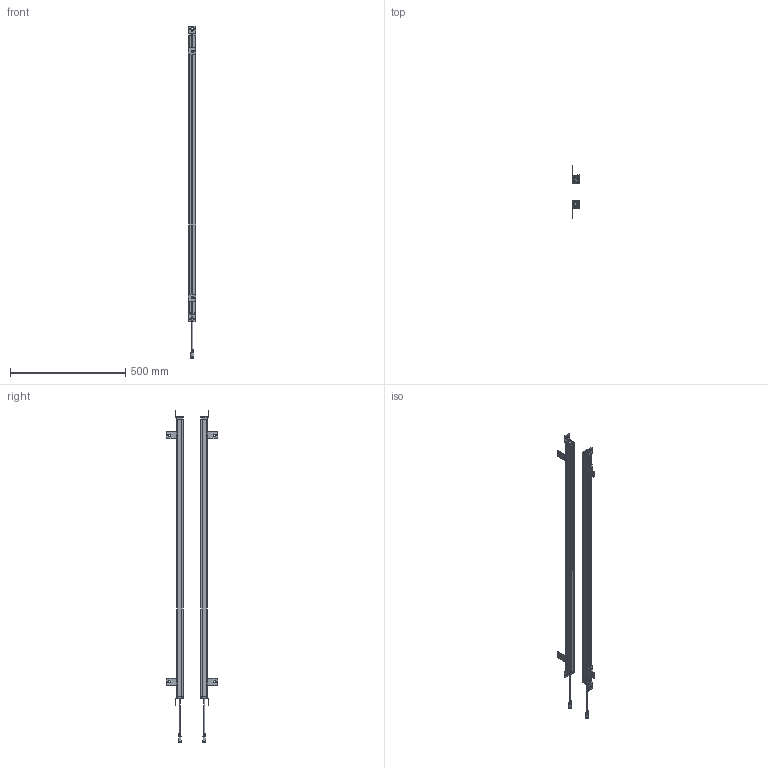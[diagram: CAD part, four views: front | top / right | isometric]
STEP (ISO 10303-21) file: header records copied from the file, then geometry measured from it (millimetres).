
FILE_DESCRIPTION(/* description */ (''),/* implementation_level */ '2;1');
FILE_NAME(/* name */ '6020（29x30）.stp',/* time_stamp */ '2023-04-28T14:10:50+08:00',/* author */ (''),/* organization */ (''),/* preprocessor_version */ 'ST-DEVELOPER v16.7',/* originating_system */ 'SIEMENS PLM Software NX 12.0',/* authorisation */ '');
FILE_SCHEMA (('AUTOMOTIVE_DESIGN { 1 0 10303 214 3 1 1 1 }'));
Products named in the file (1): 7220（29x30）_stp
Bounding box: 32.03 x 223.99 x 1441 mm (x, y, z)
Volume: 760762.9 mm3; surface area: 783893.4 mm2
Topology: 34 solids, 34 shells, 1610 faces, 4267 edges, 2771 vertices
Faces by surface type: plane 750, cylinder 648, bspline 88, sphere 36, cone 36, torus 32, extrusion 20
Full cylindrical faces by diameter (mm): 1.533 x6, 4.4 x4, 9 x2, 12.5 x2
Entity records: 56427 total; most frequent: CARTESIAN_POINT 16064, DIRECTION 8330, ORIENTED_EDGE 8324, EDGE_CURVE 4162, AXIS2_PLACEMENT_3D 2918, VERTEX_POINT 2696, VECTOR 2494, LINE 2474
